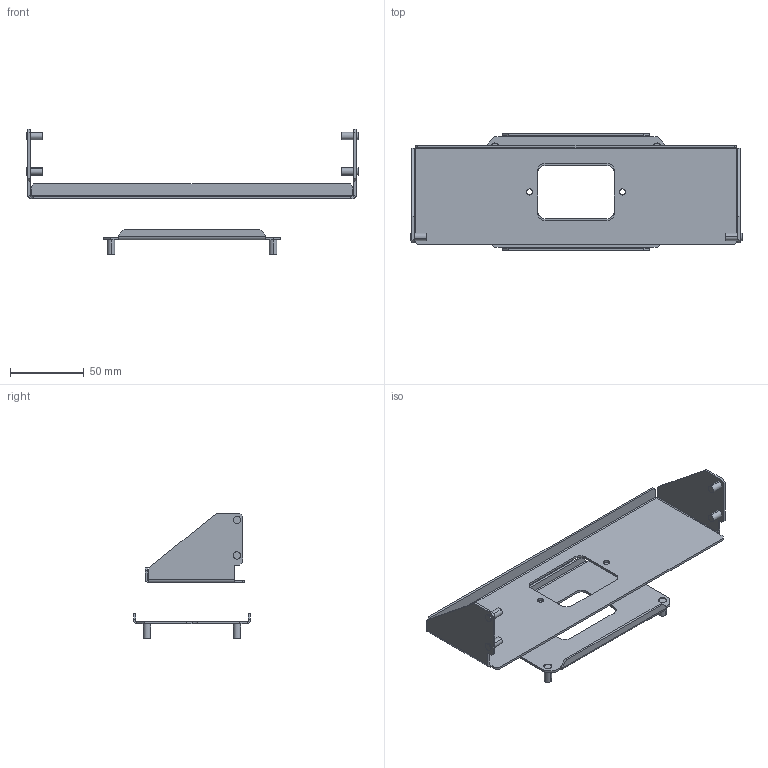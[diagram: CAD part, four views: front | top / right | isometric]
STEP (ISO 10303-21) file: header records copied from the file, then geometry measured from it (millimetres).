
FILE_DESCRIPTION(('CAx-IF Rec.Pracs.---Model Styling and Organization---1.2---2011-12-15','CAx-IF Rec.Pracs.---Geometric and Assembly Validation Properties---4.1---2014-06-16','CAx-IF Rec.Pracs.---PMI Polyline Presentation---2.0---2013-05-24'),'2;1');
FILE_NAME('R5M2W2M2BR16.stp','2021-05-05T12:09:19+03:00',(''),(''),'STEP Interface 4.4 by CT CoreTechnologie','3D_Evolution4.4 by CT CoreTechnologie','');
FILE_SCHEMA(('AUTOMOTIVE_DESIGN { 1 0 10303 214 1 1 1 1 }'));
Length unit declared in the file: millimetre
Products named in the file (4): R5M2W2M2BR16; M5x8-DIN7500C_stright; RB.1254.00.00.0_-00; RB.1353.00.00.0_-05
Assembly tree (10 placements, depth 2):
  R5M2W2M2BR16
    M5x8-DIN7500C_stright  x8
    RB.1254.00.00.0_-00
    RB.1353.00.00.0_-05
Bounding box: 225.1 x 79.2 x 84.9 mm (x, y, z)
Surface area: 57943.2 mm2 (no closed solid volume)
Topology: 0 solids, 10 shells, 152 faces, 370 edges, 238 vertices
Faces by surface type: plane 91, cylinder 61
Entity records: 4177 total; most frequent: DIRECTION 692, CARTESIAN_POINT 673, ORIENTED_EDGE 656, EDGE_CURVE 328, VECTOR 234, LINE 234, AXIS2_PLACEMENT_3D 229, VERTEX_POINT 210
